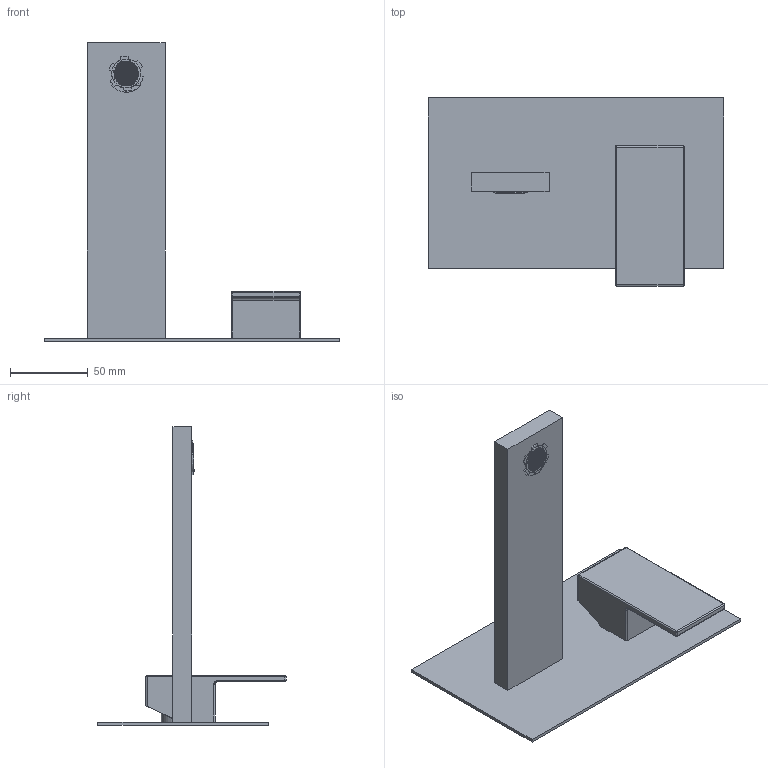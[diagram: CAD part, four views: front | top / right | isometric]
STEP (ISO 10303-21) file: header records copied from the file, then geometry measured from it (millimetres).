
FILE_DESCRIPTION (( 'STEP AP214' ), '1' );
FILE_NAME ('58321210 x architetti.STEP', '2025-01-20T10:56:10', ( '' ), ( '' ), 'SwSTEP 2.0', 'SolidWorks 2020', '' );
FILE_SCHEMA (( 'AUTOMOTIVE_DESIGN' ));
Length unit declared in the file: millimetre
Products named in the file (1): 58321210 x architetti
Bounding box: 190 x 121.15 x 192 mm (x, y, z)
Volume: 189725.3 mm3; surface area: 85172 mm2
Topology: 1 solids, 1 shells, 1177 faces, 2881 edges, 1913 vertices
Faces by surface type: plane 1110, cylinder 50, bspline 17
Entity records: 45729 total; most frequent: CARTESIAN_POINT 7585, ORIENTED_EDGE 5742, DIRECTION 5160, EDGE_CURVE 2871, VECTOR 2718, LINE 2718, VERTEX_POINT 1913, EDGE_LOOP 1400
